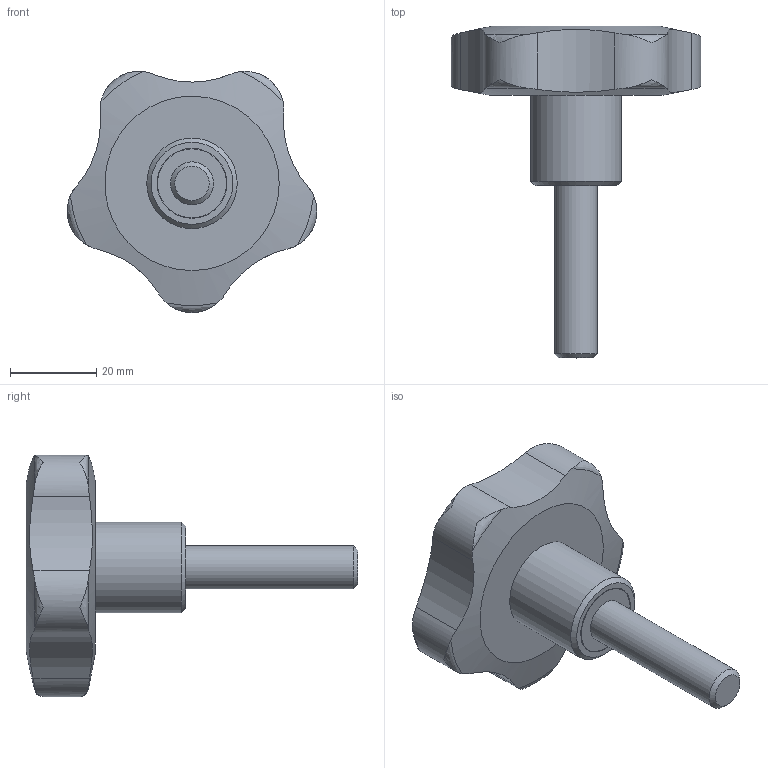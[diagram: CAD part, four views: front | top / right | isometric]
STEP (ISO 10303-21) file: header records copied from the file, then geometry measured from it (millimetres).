
FILE_DESCRIPTION( ( 'STEP AP203' ), '1' );
FILE_NAME( 'C:/Temp/Ganter_Step_05_03_2020/data/2_2/gn_5337_4/gn_5337_4_s/Star knob GN 5337.4-60-M10-40.stp', '2020-03-05T12:09:51', ( 'License CC BY-ND 4.0' ), ( 'CADENAS' ), ' ', 'PARTsolutions', ' ' );
FILE_SCHEMA( ( 'CONFIG_CONTROL_DESIGN' ) );
Length unit declared in the file: millimetre
Products named in the file (1): _Star knob GN 5337.4-60-M10-40
Bounding box: 57.94 x 77 x 55.99 mm (x, y, z)
Volume: 43563 mm3; surface area: 9488.2 mm2
Topology: 1 solids, 1 shells, 34 faces, 90 edges, 61 vertices
Faces by surface type: cylinder 14, torus 10, plane 5, cone 3, bspline 1, sphere 1
Full cylindrical faces by diameter (mm): 10 x1, 16 x1, 16.2 x1, 21 x1
Entity records: 1493 total; most frequent: CARTESIAN_POINT 730, ORIENTED_EDGE 154, DIRECTION 122, EDGE_CURVE 77, VERTEX_POINT 58, AXIS2_PLACEMENT_3D 56, EDGE_LOOP 46, B_SPLINE_CURVE_WITH_KNOTS 45
